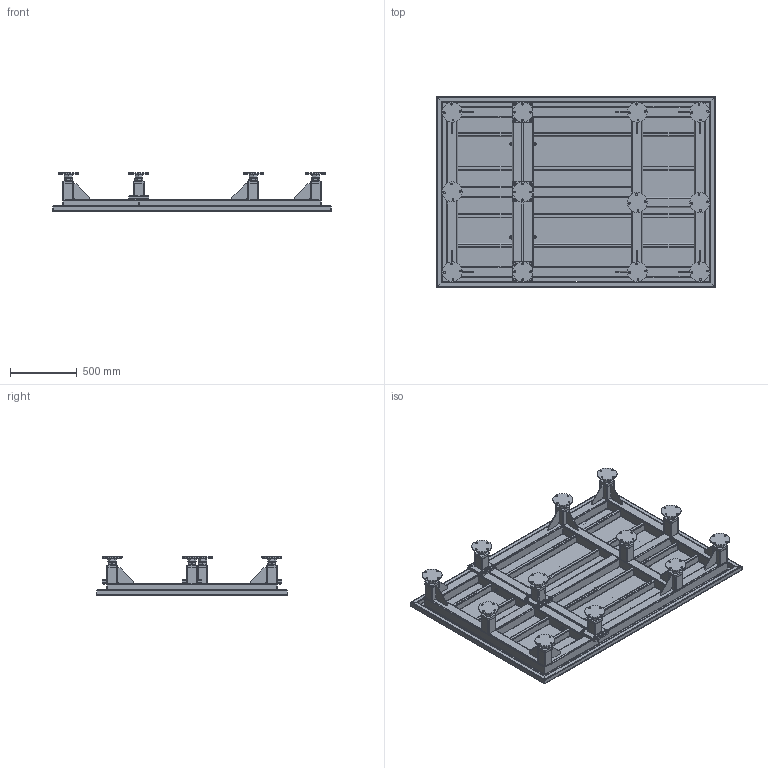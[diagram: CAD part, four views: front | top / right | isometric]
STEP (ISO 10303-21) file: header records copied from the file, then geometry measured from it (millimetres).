
FILE_DESCRIPTION (( 'STEP AP214' ), '1' );
FILE_NAME ('PIC-PROBER-00.STEP', '2025-07-29T12:08:45', ( '' ), ( '' ), 'SwSTEP 2.0', 'SolidWorks 2017', '' );
FILE_SCHEMA (( 'AUTOMOTIVE_DESIGN' ));
Length unit declared in the file: millimetre
Products named in the file (19): Z-M12 ASSY_160; Z-Tige filetée - M12_M12x200; PIC-PROBER-02_D‚faut<Brut d''usinage>; z_NUT_H_NUT H M 12; pro-Z-Washer_WASHER M 10; Z-M10; PIC-PROBER-04; z-vis h _m36x140; PIC-PROBER-03; PIC-PROBER-05_pied seul; PIC-PROBER-07_D‚faut<Brut d''usinage>; PIC-PROBER-05_1; PIC-PROBER-00; PIC-PROBER-06; écrou_HBAS_‚crou h M36; PIC-PROBER-05_1<Brut d''usinage>; z_Washer_WASHER M 12; PIC-PROBER-ESQ; pro-Z-Screw_H_SCREW H M10x30-26
Assembly tree (40 placements, depth 4):
  PIC-PROBER-00
    PIC-PROBER-02_D‚faut<Brut d''usinage>
    PIC-PROBER-05_pied seul  x9
      PIC-PROBER-06
      z-vis h _m36x140
      écrou_HBAS_‚crou h M36
    PIC-PROBER-05_1  x3
      PIC-PROBER-05_1<Brut d''usinage>
      PIC-PROBER-06
      z-vis h _m36x140
      Z-M10
        pro-Z-Screw_H_SCREW H M10x30-26
        pro-Z-Washer_WASHER M 10
      écrou_HBAS_‚crou h M36
    PIC-PROBER-04
    PIC-PROBER-03
    PIC-PROBER-07_D‚faut<Brut d''usinage>
    Z-M12 ASSY_160  x2
      Z-Tige filetée - M12_M12x200
      z_Washer_WASHER M 12
      z_NUT_H_NUT H M 12
  PIC-PROBER-ESQ
Bounding box: 2094 x 1434 x 290 mm (x, y, z)
Volume: 42965183.8 mm3; surface area: 23791307.5 mm2
Topology: 173 solids, 173 shells, 2848 faces, 6828 edges, 4402 vertices
Faces by surface type: plane 1218, cylinder 1064, cone 542, bspline 24
Entity records: 51977 total; most frequent: CARTESIAN_POINT 9136, DIRECTION 7936, ORIENTED_EDGE 7590, EDGE_CURVE 3795, AXIS2_PLACEMENT_3D 2875, VERTEX_POINT 2493, VECTOR 2186, LINE 2186
